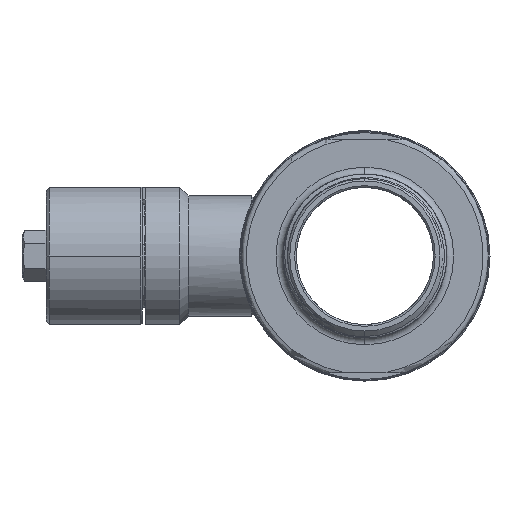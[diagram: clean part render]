
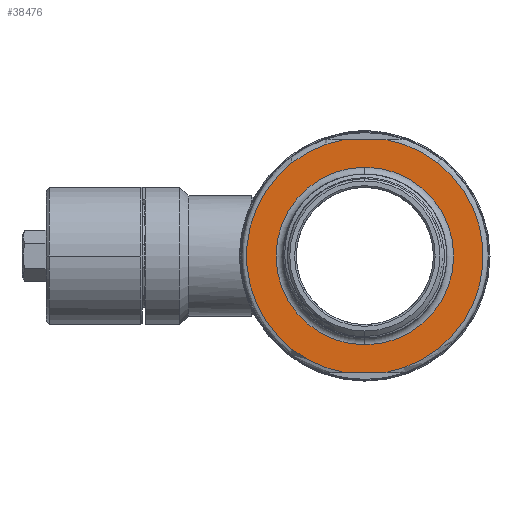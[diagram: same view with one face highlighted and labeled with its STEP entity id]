
A CAD part, left-side view. The second image highlights one B-rep face of the part: STEP entity #38476.
In plain terms, the highlighted planar face has unit normal (-1, 0, 0).
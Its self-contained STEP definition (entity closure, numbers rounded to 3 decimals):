
#1819=CARTESIAN_POINT('',(-44.,-5.852,-34.));
#1846=CARTESIAN_POINT('',(-44.,0.,0.));
#1847=DIRECTION('',(-1.,0.,0.));
#1848=DIRECTION('',(0.,-0.17,-0.986));
#1849=AXIS2_PLACEMENT_3D('',#1846,#1847,#1848);
#1854=CARTESIAN_POINT('',(-44.,-5.852,34.));
#1902=DIRECTION('',(0.,1.,0.));
#1903=VECTOR('',#1902,11.705);
#1904=CARTESIAN_POINT('',(-44.,-5.852,-34.));
#1905=LINE('',#1904,#1903);
#1909=DIRECTION('',(0.,1.,0.));
#1910=VECTOR('',#1909,11.705);
#1911=CARTESIAN_POINT('',(-44.,-5.852,34.));
#1912=LINE('',#1911,#1910);
#1932=CARTESIAN_POINT('',(-44.,5.852,34.));
#1959=CARTESIAN_POINT('',(-44.,0.,0.));
#1960=DIRECTION('',(-1.,0.,0.));
#1961=DIRECTION('',(0.,0.17,0.986));
#1962=AXIS2_PLACEMENT_3D('',#1959,#1960,#1961);
#1967=CARTESIAN_POINT('',(-44.,5.852,-34.));
#2015=CARTESIAN_POINT('',(-44.,0.,0.));
#2016=DIRECTION('',(-1.,0.,0.));
#2017=DIRECTION('',(0.,0.,1.));
#2018=AXIS2_PLACEMENT_3D('',#2015,#2016,#2017);
#2047=CARTESIAN_POINT('',(-44.,0.,0.));
#2048=DIRECTION('',(-1.,0.,0.));
#2049=DIRECTION('',(0.,0.,-1.));
#2050=AXIS2_PLACEMENT_3D('',#2047,#2048,#2049);
#36293=VERTEX_POINT('',#1967);
#36296=VERTEX_POINT('',#1932);
#36301=VERTEX_POINT('',#1854);
#36304=VERTEX_POINT('',#1819);
#36321=CARTESIAN_POINT('',(-44.,0.,-25.9));
#36322=CARTESIAN_POINT('',(-44.,0.,25.9));
#36323=VERTEX_POINT('',#36321);
#36324=VERTEX_POINT('',#36322);
#38457=CARTESIAN_POINT('',(-44.,0.,0.));
#38458=DIRECTION('',(-1.,0.,0.));
#38459=DIRECTION('',(0.,1.,0.));
#38460=AXIS2_PLACEMENT_3D('',#38457,#38458,#38459);
#38461=PLANE('',#38460);
#38462=ORIENTED_EDGE('',*,*,#38445,.T.);
#38464=ORIENTED_EDGE('',*,*,#38463,.F.);
#38466=ORIENTED_EDGE('',*,*,#38465,.F.);
#38467=ORIENTED_EDGE('',*,*,#38433,.F.);
#38468=EDGE_LOOP('',(#38462,#38464,#38466,#38467));
#38469=FACE_OUTER_BOUND('',#38468,.F.);
#38471=ORIENTED_EDGE('',*,*,#38470,.T.);
#38473=ORIENTED_EDGE('',*,*,#38472,.T.);
#38474=EDGE_LOOP('',(#38471,#38473));
#38475=FACE_BOUND('',#38474,.F.);
#38476=ADVANCED_FACE('',(#38469,#38475),#38461,.T.);
#1850=CIRCLE('',#1849,34.5);
#1963=CIRCLE('',#1962,34.5);
#2019=CIRCLE('',#2018,25.9);
#2051=CIRCLE('',#2050,25.9);
#38433=EDGE_CURVE('',#36304,#36301,#1850,.T.);
#38445=EDGE_CURVE('',#36304,#36293,#1905,.T.);
#38463=EDGE_CURVE('',#36296,#36293,#1963,.T.);
#38465=EDGE_CURVE('',#36301,#36296,#1912,.T.);
#38470=EDGE_CURVE('',#36324,#36323,#2019,.T.);
#38472=EDGE_CURVE('',#36323,#36324,#2051,.T.);
